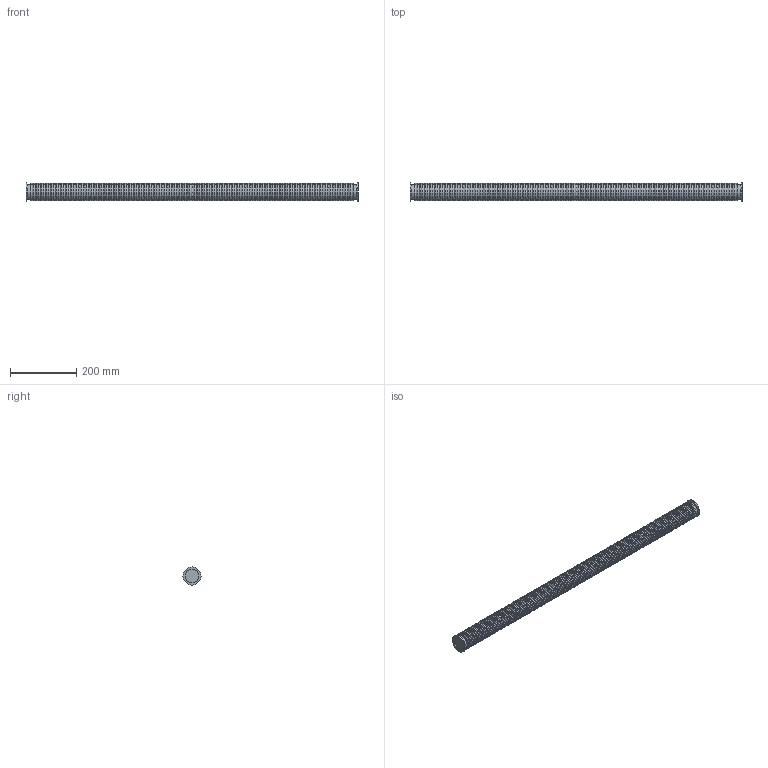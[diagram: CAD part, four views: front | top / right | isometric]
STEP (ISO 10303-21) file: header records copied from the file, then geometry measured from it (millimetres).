
FILE_DESCRIPTION( ( 'Unknown' ), '1' );
FILE_NAME( 'X:/Daten ( aktueller Bestand )/Projekte und Zeichnungen/Solid Edge/6 Verbindungsbauteile/Edelstahlschlauch/1926.stp', 'Unknown', ( 'Unknown' ), ( 'Unknown' ), 'XStep 1.0', 'Unknown', ' ' );
FILE_SCHEMA( ( 'automotive_design' ) );
Length unit declared in the file: millimetre
Products named in the file (1): 1
Bounding box: 1000 x 55 x 55 mm (x, y, z)
Volume: 1969343.4 mm3; surface area: 217432.5 mm2
Topology: 1 solids, 1 shells, 406 faces, 805 edges, 405 vertices
Faces by surface type: cylinder 202, torus 196, plane 6, cone 2
Full cylindrical faces by diameter (mm): 41.2 x2, 44 x2, 48.8 x194, 51.036 x2, 55 x2
Entity records: 11378 total; most frequent: DIRECTION 1624, CARTESIAN_POINT 1217, AXIS2_PLACEMENT_3D 812, EDGE_LOOP 810, ORIENTED_EDGE 810, FACE_OUTER_BOUND 804, STYLED_ITEM 406, PRESENTATION_STYLE_ASSIGNMENT 406
